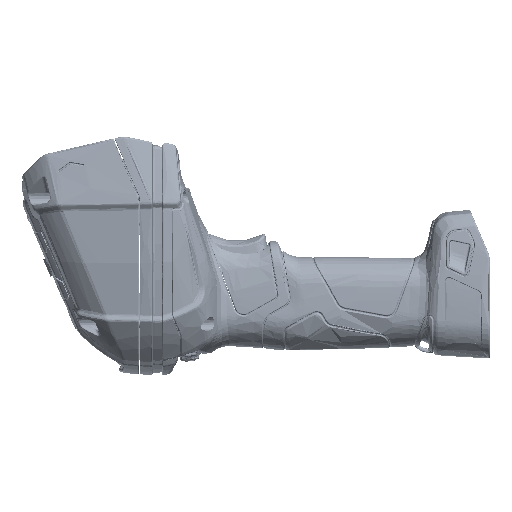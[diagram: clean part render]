
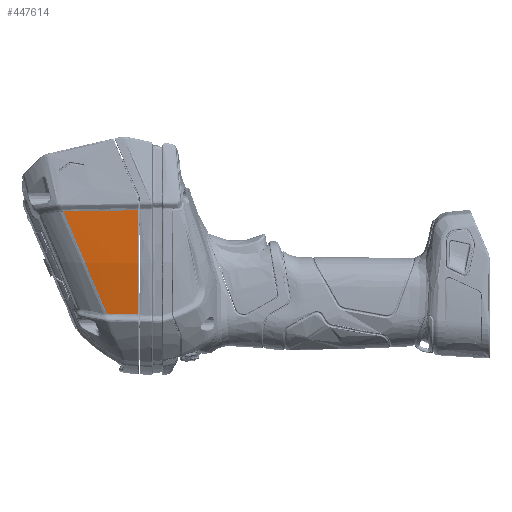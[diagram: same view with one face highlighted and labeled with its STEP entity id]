
A CAD part, left-side view. The second image highlights one B-rep face of the part: STEP entity #447614.
In plain terms, the highlighted free-form (B-spline) face has degree [3, 3] with [4, 7] control points.
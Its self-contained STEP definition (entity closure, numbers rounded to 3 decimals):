
#807 = CARTESIAN_POINT ( 'NONE',  ( -39.807, 35.115, 40.442 ) ) ;
#42700 = CARTESIAN_POINT ( 'NONE',  ( -37.934, 36.475, 15.632 ) ) ;
#43436 = CARTESIAN_POINT ( 'NONE',  ( -40.507, 11.17, 24.052 ) ) ;
#43728 = CARTESIAN_POINT ( 'NONE',  ( -36.01, 11.417, -8.768 ) ) ;
#46257 = CARTESIAN_POINT ( 'NONE',  ( -38.893, 44.845, 35.396 ) ) ;
#47046 = ORIENTED_EDGE ( 'NONE', *, *, #128476, .T. ) ;
#50453 = CARTESIAN_POINT ( 'NONE',  ( -36.033, 34.458, -0.565 ) ) ;
#51039 = CARTESIAN_POINT ( 'NONE',  ( -35.16, 26.192, -8.478 ) ) ;
#53949 = CARTESIAN_POINT ( 'NONE',  ( -38.449, 30.004, 15.758 ) ) ;
#56733 = CARTESIAN_POINT ( 'NONE',  ( -39.805, 34.966, 40.098 ) ) ;
#57471 = CARTESIAN_POINT ( 'NONE',  ( -37.54, 11.129, -0.854 ) ) ;
#60018 = ORIENTED_EDGE ( 'NONE', *, *, #665224, .T. ) ;
#60764 = CARTESIAN_POINT ( 'NONE',  ( -35.16, 26.192, -8.478 ) ) ;
#69151 = CARTESIAN_POINT ( 'NONE',  ( -35.185, 25.826, -8.471 ) ) ;
#92433 = CARTESIAN_POINT ( 'NONE',  ( -38.166, 37.831, 18.825 ) ) ;
#95895 = CARTESIAN_POINT ( 'NONE',  ( -37.963, 36.637, 16.014 ) ) ;
#96591 = CARTESIAN_POINT ( 'NONE',  ( -40.57, 23.165, 40.621 ) ) ;
#102326 = CARTESIAN_POINT ( 'NONE',  ( -36.01, 11.417, -8.768 ) ) ;
#103521 = CARTESIAN_POINT ( 'NONE',  ( -35.971, 11.122, -9.065 ) ) ;
#110382 = B_SPLINE_CURVE_WITH_KNOTS ( 'NONE', 3,
 ( #548917, #131189, #439328, #669121 ),
 .UNSPECIFIED., .F., .F.,
 ( 4, 4 ),
 ( 0., 0.014 ),
 .UNSPECIFIED. ) ;
#112086 = B_SPLINE_CURVE_WITH_KNOTS ( 'NONE', 3,
 ( #51039, #117993, #457423, #337174 ),
 .UNSPECIFIED., .F., .F.,
 ( 4, 4 ),
 ( 0., 0. ),
 .UNSPECIFIED. ) ;
#117993 = CARTESIAN_POINT ( 'NONE',  ( -35.169, 26.07, -8.471 ) ) ;
#128476 = EDGE_CURVE ( 'NONE', #620282, #324849, #516738, .T. ) ;
#131189 = CARTESIAN_POINT ( 'NONE',  ( -35.478, 21.024, -8.576 ) ) ;
#136126 = VERTEX_POINT ( 'NONE', #151030 ) ;
#141829 = CARTESIAN_POINT ( 'NONE',  ( -37.937, 36.49, 15.667 ) ) ;
#151030 = CARTESIAN_POINT ( 'NONE',  ( -41.18, 11.416, 40.461 ) ) ;
#155193 = B_SPLINE_CURVE_WITH_KNOTS ( 'NONE', 3,
 ( #43728, #372548, #588475, #255999, #418852, #634660 ),
 .UNSPECIFIED., .F., .F.,
 ( 4, 2, 4 ),
 ( 0., 0.5, 1. ),
 .UNSPECIFIED. ) ;
#185180 = CARTESIAN_POINT ( 'NONE',  ( -38.903, 47.056, 40.229 ) ) ;
#194914 = CARTESIAN_POINT ( 'NONE',  ( -37.583, 34.531, 11.058 ) ) ;
#198398 = CARTESIAN_POINT ( 'NONE',  ( -37.158, 32.703, 6.768 ) ) ;
#201936 = CARTESIAN_POINT ( 'NONE',  ( -35.698, 27.676, -5.009 ) ) ;
#212253 = EDGE_CURVE ( 'NONE', #303375, #218549, #110382, .T. ) ;
#218549 = VERTEX_POINT ( 'NONE', #102326 ) ;
#248031 = CARTESIAN_POINT ( 'NONE',  ( -38.53, 40.481, 25.078 ) ) ;
#255999 = CARTESIAN_POINT ( 'NONE',  ( -40.364, 11.418, 22.479 ) ) ;
#259179 = CARTESIAN_POINT ( 'NONE',  ( -38.762, 11.141, 7.424 ) ) ;
#262696 = CARTESIAN_POINT ( 'NONE',  ( -39.079, 20.577, 15.759 ) ) ;
#269629 = CARTESIAN_POINT ( 'NONE',  ( -36.591, 26.687, -0.662 ) ) ;
#273153 = CARTESIAN_POINT ( 'NONE',  ( -37.089, 18.897, -0.755 ) ) ;
#275834 = CARTESIAN_POINT ( 'NONE',  ( -40.559, 23.195, 40.298 ) ) ;
#301133 = CARTESIAN_POINT ( 'NONE',  ( -35.16, 26.192, -8.478 ) ) ;
#303375 = VERTEX_POINT ( 'NONE', #69151 ) ;
#304625 = CARTESIAN_POINT ( 'NONE',  ( -37.948, 36.553, 15.816 ) ) ;
#312247 = CARTESIAN_POINT ( 'NONE',  ( -38.25, 19.728, 7.489 ) ) ;
#315049 = CARTESIAN_POINT ( 'NONE',  ( -38.915, 46.726, 39.862 ) ) ;
#322691 = CARTESIAN_POINT ( 'NONE',  ( -40.403, 22.292, 32.324 ) ) ;
#324849 = VERTEX_POINT ( 'NONE', #60764 ) ;
#326139 = CARTESIAN_POINT ( 'NONE',  ( -37.029, 36.915, 7.587 ) ) ;
#337174 = CARTESIAN_POINT ( 'NONE',  ( -35.185, 25.826, -8.471 ) ) ;
#340875 = ORIENTED_EDGE ( 'NONE', *, *, #688907, .T. ) ;
#361039 = CARTESIAN_POINT ( 'NONE',  ( -37.934, 36.472, 15.627 ) ) ;
#364605 = CARTESIAN_POINT ( 'NONE',  ( -38.052, 37.145, 17.21 ) ) ;
#365331 = CARTESIAN_POINT ( 'NONE',  ( -39.634, 11.155, 15.738 ) ) ;
#368808 = CARTESIAN_POINT ( 'NONE',  ( -39.669, 33.381, 32.212 ) ) ;
#372548 = CARTESIAN_POINT ( 'NONE',  ( -37.368, 11.418, -1.622 ) ) ;
#375776 = CARTESIAN_POINT ( 'NONE',  ( -39.218, 31.677, 23.976 ) ) ;
#410835 = CARTESIAN_POINT ( 'NONE',  ( -38.429, 39.648, 23.111 ) ) ;
#415050 = FACE_OUTER_BOUND ( 'NONE', #450690, .T. ) ;
#418852 = CARTESIAN_POINT ( 'NONE',  ( -40.982, 11.417, 31.218 ) ) ;
#425506 = CARTESIAN_POINT ( 'NONE',  ( -38.809, 44.465, 32.075 ) ) ;
#432483 = CARTESIAN_POINT ( 'NONE',  ( -37.679, 28.33, 7.539 ) ) ;
#439328 = CARTESIAN_POINT ( 'NONE',  ( -35.752, 16.221, -8.675 ) ) ;
#447614 = ADVANCED_FACE ( 'NONE', ( #415050 ), #475433, .F. ) ;
#450690 = EDGE_LOOP ( 'NONE', ( #667752, #659384, #60018, #47046, #340875 ) ) ;
#457423 = CARTESIAN_POINT ( 'NONE',  ( -35.178, 25.948, -8.468 ) ) ;
#463943 = CARTESIAN_POINT ( 'NONE',  ( -38.257, 38.431, 20.24 ) ) ;
#475433 = B_SPLINE_SURFACE_WITH_KNOTS ( 'NONE', 3, 3, ( 
 ( #185180, #425506, #538596, #535148, #326139, #50453, #581243 ),
 ( #807, #368808, #375776, #53949, #432483, #269629, #485469 ),
 ( #96591, #322691, #591714, #262696, #312247, #273153, #588197 ),
 ( #648341, #528148, #43436, #365331, #259179, #57471, #103521 ) ),
 .UNSPECIFIED., .F., .F., .F.,
 ( 4, 4 ),
 ( 4, 3, 4 ),
 ( 0.246, 0.996 ),
 ( 0.048, 0.502, 0.955 ),
 .UNSPECIFIED. ) ;
#479899 = EDGE_CURVE ( 'NONE', #218549, #136126, #155193, .T. ) ;
#485469 = CARTESIAN_POINT ( 'NONE',  ( -35.183, 25.073, -8.821 ) ) ;
#488254 = CARTESIAN_POINT ( 'NONE',  ( -41.18, 11.416, 40.461 ) ) ;
#516738 = B_SPLINE_CURVE_WITH_KNOTS ( 'NONE', 3,
 ( #315049, #46257, #633651, #248031, #410835, #463943, #92433, #364605, #690144, #95895, #304625, #527447, #141829, #523943, #42700, #361039, #194914, #198398, #520457, #201936, #301133 ),
 .UNSPECIFIED., .F., .F.,
 ( 4, 2, 2, 1, 1, 1, 1, 1, 1, 1, 2, 2, 2, 4 ),
 ( 0., 0.25, 0.375, 0.437, 0.469, 0.484, 0.492, 0.496, 0.498, 0.499, 0.5, 0.5, 0.75, 1. ),
 .UNSPECIFIED. ) ;
#520457 = CARTESIAN_POINT ( 'NONE',  ( -36.216, 29.275, -1.265 ) ) ;
#523943 = CARTESIAN_POINT ( 'NONE',  ( -37.935, 36.481, 15.646 ) ) ;
#527447 = CARTESIAN_POINT ( 'NONE',  ( -37.94, 36.511, 15.717 ) ) ;
#528148 = CARTESIAN_POINT ( 'NONE',  ( -41.028, 11.186, 32.403 ) ) ;
#535148 = CARTESIAN_POINT ( 'NONE',  ( -37.723, 39.416, 15.747 ) ) ;
#538596 = CARTESIAN_POINT ( 'NONE',  ( -38.417, 41.918, 23.908 ) ) ;
#541363 = CARTESIAN_POINT ( 'NONE',  ( -38.915, 46.726, 39.862 ) ) ;
#548917 = CARTESIAN_POINT ( 'NONE',  ( -35.185, 25.826, -8.471 ) ) ;
#578636 = CARTESIAN_POINT ( 'NONE',  ( -38.915, 46.726, 39.862 ) ) ;
#581243 = CARTESIAN_POINT ( 'NONE',  ( -34.732, 32.044, -8.688 ) ) ;
#582290 = B_SPLINE_CURVE_WITH_KNOTS ( 'NONE', 3,
 ( #488254, #275834, #56733, #541363 ),
 .UNSPECIFIED., .F., .F.,
 ( 4, 4 ),
 ( 0., 0.036 ),
 .UNSPECIFIED. ) ;
#588197 = CARTESIAN_POINT ( 'NONE',  ( -35.595, 18.096, -8.947 ) ) ;
#588475 = CARTESIAN_POINT ( 'NONE',  ( -38.557, 11.418, 6.06 ) ) ;
#591714 = CARTESIAN_POINT ( 'NONE',  ( -39.907, 21.426, 24.028 ) ) ;
#620282 = VERTEX_POINT ( 'NONE', #578636 ) ;
#633651 = CARTESIAN_POINT ( 'NONE',  ( -38.786, 43.047, 31.141 ) ) ;
#634660 = CARTESIAN_POINT ( 'NONE',  ( -41.18, 11.416, 40.461 ) ) ;
#648341 = CARTESIAN_POINT ( 'NONE',  ( -41.197, 11.204, 40.761 ) ) ;
#659384 = ORIENTED_EDGE ( 'NONE', *, *, #479899, .T. ) ;
#665224 = EDGE_CURVE ( 'NONE', #136126, #620282, #582290, .T. ) ;
#667752 = ORIENTED_EDGE ( 'NONE', *, *, #212253, .T. ) ;
#669121 = CARTESIAN_POINT ( 'NONE',  ( -36.01, 11.417, -8.768 ) ) ;
#688907 = EDGE_CURVE ( 'NONE', #324849, #303375, #112086, .T. ) ;
#690144 = CARTESIAN_POINT ( 'NONE',  ( -37.993, 36.806, 16.411 ) ) ;
